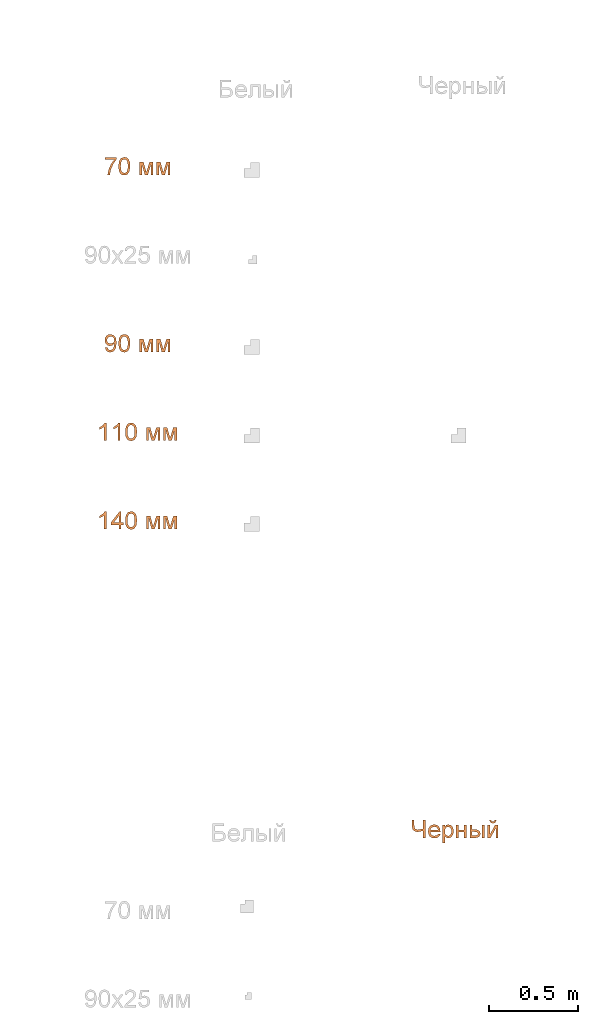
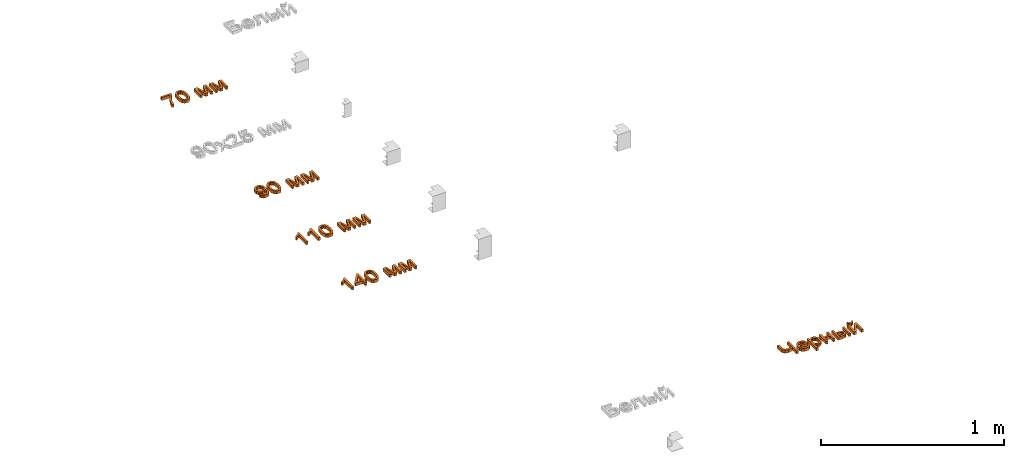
# One storey, part 40 of 87: 5 proxies.
"""IFC2X3 building model written with IfcOpenShell, lengths in millimetres."""

from ifc_helpers import new_model, entity, si_unit, converted_unit, derived_unit, direction, frame, frame_2d, origin, place, context, subcontext, project, spatial, polyline, rectangle, outline, extrude, element, save


model = new_model("IFC2X3")

# Units and contexts
model_context = context("Model", 3, precision=0.01, world=origin(), true_north=direction((6.12303176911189e-17, 1.0)))
body_context = subcontext(model_context, "Body", "Model", "MODEL_VIEW")
ifc_project = project(units=[si_unit("LENGTHUNIT", "METRE", prefix="MILLI"), si_unit("AREAUNIT", "SQUARE_METRE"), si_unit("VOLUMEUNIT", "CUBIC_METRE"), converted_unit("PLANEANGLEUNIT", "DEGREE", entity("IfcRatioMeasure", 0.0174532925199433), si_unit("PLANEANGLEUNIT", "RADIAN"), dimensions=[0, 0, 0, 0, 0, 0, 0]), si_unit("MASSUNIT", "GRAM", prefix="KILO"), derived_unit("MASSDENSITYUNIT", [(si_unit("MASSUNIT", "GRAM", prefix="KILO"), 1), (si_unit("LENGTHUNIT", "METRE"), -3)]), si_unit("TIMEUNIT", "SECOND"), si_unit("FREQUENCYUNIT", "HERTZ"), si_unit("THERMODYNAMICTEMPERATUREUNIT", "DEGREE_CELSIUS"), derived_unit("THERMALTRANSMITTANCEUNIT", [(si_unit("MASSUNIT", "GRAM", prefix="KILO"), 1), (si_unit("THERMODYNAMICTEMPERATUREUNIT", "KELVIN"), -1), (si_unit("TIMEUNIT", "SECOND"), -3)]), derived_unit("VOLUMETRICFLOWRATEUNIT", [(si_unit("LENGTHUNIT", "METRE"), 3), (si_unit("TIMEUNIT", "SECOND"), -1)]), si_unit("ELECTRICCURRENTUNIT", "AMPERE"), si_unit("ELECTRICVOLTAGEUNIT", "VOLT"), si_unit("POWERUNIT", "WATT"), si_unit("FORCEUNIT", "NEWTON", prefix="KILO"), si_unit("ILLUMINANCEUNIT", "LUX"), si_unit("LUMINOUSFLUXUNIT", "LUMEN"), si_unit("LUMINOUSINTENSITYUNIT", "CANDELA"), derived_unit("USERDEFINED", [(si_unit("MASSUNIT", "GRAM", prefix="KILO"), -1), (si_unit("LENGTHUNIT", "METRE"), -2), (si_unit("TIMEUNIT", "SECOND"), 3), (si_unit("LUMINOUSFLUXUNIT", "LUMEN"), 1)]), derived_unit("LINEARVELOCITYUNIT", [(si_unit("LENGTHUNIT", "METRE"), 1), (si_unit("TIMEUNIT", "SECOND"), -1)]), si_unit("PRESSUREUNIT", "PASCAL"), derived_unit("USERDEFINED", [(si_unit("LENGTHUNIT", "METRE"), -2), (si_unit("MASSUNIT", "GRAM", prefix="KILO"), 1), (si_unit("TIMEUNIT", "SECOND"), -2)])], contexts=[model_context])

# Site, building, storey
site_placement = place(None, origin())
site = spatial("IfcSite", under=ifc_project, at=site_placement, Name="Default", CompositionType="ELEMENT")
building_placement = place(site_placement, origin())
building = spatial("IfcBuilding", under=site, at=building_placement, Name="Наименование здания", CompositionType="ELEMENT")
storey_placement = place(building_placement, origin())
storey = spatial("IfcBuildingStorey", under=building, at=storey_placement, Name="Этаж 01", CompositionType="ELEMENT", Elevation=0.0)

# Proxies
proxy_1_placement = place(storey_placement, origin())
element("IfcBuildingElementProxy", 1, at=proxy_1_placement, inside=storey, Name="Текст модели:100 мм Arial", ObjectType="Текст модели:100 мм Arial", context=body_context, shape_type="SweptSolid", body=[
    extrude(outline(polyline([(-33.1249866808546, -28.4339338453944), (-33.1249866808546, -40.9909726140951), (32.799466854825, -40.9909726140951), (32.799466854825, -30.8374295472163), (14.0987987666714, -3.82262836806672), (-0.211810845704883, 30.5988636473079), (-4.87164945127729, 57.8957076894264), (-17.4286882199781, 57.8957076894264), (-12.4377558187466, 29.5687940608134), (1.25971713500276, -2.44920225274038), (20.2424280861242, -28.4339338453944), (-33.1249866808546, -28.4339338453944)])), frame((12235.1846956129, -8965.14171527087, 0.0), z_axis=(0.0, 0.0, -1.0), x_axis=(1.0, 0.0, 0.0)), (0.0, 0.0, -1.0), 20.0),
    extrude(outline(polyline([(-7.02884310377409, -33.3490673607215), (17.5323805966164, -33.3490673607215), (35.1984171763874, -27.6137612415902), (43.3439841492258, -18.4876517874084), (47.0516941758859, -5.75150665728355), (46.7162020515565, 4.48638208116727), (43.4465778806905, 13.0955287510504), (27.9444305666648, 25.6659118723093), (-0.314338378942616, 32.2325535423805), (-24.0296505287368, 32.3678288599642), (-39.4143020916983, 28.0260881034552), (-49.729368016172, 18.9002174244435), (-54.443671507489, 4.63998875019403), (-50.8676582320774, -14.130105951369), (-35.4058547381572, -26.733339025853), (-7.02884310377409, -33.3490673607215)]), holes=[polyline([(-5.77428774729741, -20.8548320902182), (-25.0157644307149, -17.3562860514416), (-36.7257089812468, -11.5717922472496), (-41.096258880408, -4.77599682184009), (-41.9669219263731, 3.2146479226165), (-39.2244253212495, 11.2791292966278), (-32.8654063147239, 17.2229259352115), (-20.969837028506, 20.2947501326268), (-1.61768958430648, 19.7433141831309), (17.8514140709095, 16.2707701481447), (28.7803640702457, 10.7141596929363), (33.5546988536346, 3.61815959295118), (34.5599568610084, -4.47255337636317), (31.9421230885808, -12.1923199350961), (25.84718253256, -18.1754808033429), (14.0250679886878, -21.4027476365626), (-5.77428774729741, -20.8548320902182)])]), frame((12312.8631089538, -8977.21424601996, 0.0), z_axis=(0.0, 0.0, 1.0), x_axis=(0.1018515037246, -0.994799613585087, 0.0)), (0.0, 0.0, 1.0), 20.0),
    extrude(outline(polyline([(-40.5839870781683, -38.4502715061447), (33.1886156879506, -38.4502715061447), (33.1886156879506, -25.893232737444), (-29.0570178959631, -25.893232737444), (33.1886156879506, -8.6273044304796), (33.1886156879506, 7.85380895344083), (-26.2120637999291, 25.9045521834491), (33.1886156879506, 25.9045521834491), (33.1886156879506, 38.4615909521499), (-40.5839870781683, 38.4615909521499), (-40.5839870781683, 17.7620973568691), (18.4733358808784, -0.190544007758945), (-40.5839870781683, -16.8433356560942), (-40.5839870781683, -38.4502715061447)])), frame((12436.7137111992, -8989.84880727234, 0.0), z_axis=(0.0, 0.0, 1.0), x_axis=(0.0, -1.0, 0.0)), (0.0, 0.0, 1.0), 20.0),
    extrude(outline(polyline([(-40.5839870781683, -38.4502715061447), (33.1886156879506, -38.4502715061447), (33.1886156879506, -25.893232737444), (-29.0570178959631, -25.893232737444), (33.1886156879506, -8.6273044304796), (33.1886156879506, 7.85380895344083), (-26.2120637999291, 25.9045521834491), (33.1886156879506, 25.9045521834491), (33.1886156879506, 38.4615909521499), (-40.5839870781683, 38.4615909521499), (-40.5839870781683, 17.7620973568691), (18.4733358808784, -0.190544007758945), (-40.5839870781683, -16.8433356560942), (-40.5839870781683, -38.4502715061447)])), frame((12532.4611318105, -8989.84880727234, 0.0), z_axis=(0.0, 0.0, 1.0), x_axis=(0.0, -1.0, 0.0)), (0.0, 0.0, 1.0), 20.0),
])
proxy_2_placement = place(storey_placement, origin())
element("IfcBuildingElementProxy", 2, at=proxy_2_placement, inside=storey, Name="Текст модели:100 мм Arial", ObjectType="Текст модели:100 мм Arial", context=body_context, shape_type="SweptSolid", body=[
    extrude(outline(polyline([(5.58296908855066, -31.7859506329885), (17.2387167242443, -31.7859506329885), (26.9216142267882, -28.1739915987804), (34.2072820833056, -21.2554963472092), (38.6713407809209, -11.3358876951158), (39.9245387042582, -0.903731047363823), (37.9450282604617, 8.9266189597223), (32.7793953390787, 17.8190246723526), (24.474225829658, 25.4373484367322), (-3.90517077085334, 37.3659164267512), (-32.1440557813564, 40.5619140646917), (-49.7769073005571, 32.531959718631), (-59.4683269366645, 16.6032994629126), (-60.4499889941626, 4.02951589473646), (-56.4016296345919, -7.53444362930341), (-47.8362588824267, -16.8026666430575), (-35.266886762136, -22.4892406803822), (-21.9841856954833, -23.8222776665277), (-10.3310965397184, -20.2832716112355), (-1.40106329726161, -12.8047998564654), (3.71247002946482, -2.31943974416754), (3.73902096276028, 11.9281903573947), (-2.85997612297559, 24.0883984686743), (-0.471643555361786, 23.5260231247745), (13.1334133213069, 18.0099957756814), (22.6158894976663, 11.2224941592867), (27.0079821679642, 2.9145290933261), (26.6924060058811, -7.52395807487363), (20.3410079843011, -16.8945474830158), (7.30988926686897, -19.2495752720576), (5.58296908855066, -31.7859506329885)]), holes=[polyline([(-21.7672208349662, 29.1433710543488), (-13.9803799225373, 25.5922442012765), (-8.911076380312, 19.8291378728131), (-7.47464573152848, 4.45415101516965), (-10.9717321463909, -3.43916536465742), (-16.547378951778, -8.73312215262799), (-23.5758136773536, -11.1761402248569), (-31.4312638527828, -10.5166404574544), (-39.4119601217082, -6.85973803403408), (-44.9206699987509, -0.817312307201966), (-47.5297596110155, 6.83624740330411), (-46.8115950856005, 15.3265517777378), (-43.3781823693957, 22.7799280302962), (-37.7148363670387, 27.7965691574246), (-30.3387761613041, 30.0324064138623), (-21.7672208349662, 29.1433710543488)])]), frame((12232.8947602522, -9984.31998894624, 0.0), z_axis=(0.0, 0.0, 1.0), x_axis=(0.258284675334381, -0.966068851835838, 0.0)), (0.0, 0.0, 1.0), 20.0),
    extrude(outline(polyline([(-7.02884310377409, -33.3490673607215), (17.5323805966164, -33.3490673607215), (35.1984171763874, -27.6137612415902), (43.3439841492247, -18.4876517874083), (47.0516941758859, -5.75150665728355), (46.7162020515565, 4.48638208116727), (43.4465778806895, 13.0955287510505), (27.9444305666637, 25.6659118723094), (-0.314338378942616, 32.2325535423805), (-24.0296505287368, 32.3678288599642), (-39.4143020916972, 28.0260881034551), (-49.7293680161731, 18.9002174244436), (-54.4436715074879, 4.63998875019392), (-50.8676582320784, -14.1301059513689), (-35.4058547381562, -26.7333390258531), (-7.02884310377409, -33.3490673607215)]), holes=[polyline([(-5.77428774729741, -20.8548320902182), (-25.0157644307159, -17.3562860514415), (-36.7257089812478, -11.5717922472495), (-41.0962588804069, -4.7759968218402), (-41.966921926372, 3.21464792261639), (-39.2244253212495, 11.2791292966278), (-32.8654063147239, 17.2229259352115), (-20.969837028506, 20.2947501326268), (-1.61768958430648, 19.7433141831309), (17.8514140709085, 16.2707701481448), (28.7803640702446, 10.7141596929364), (33.5546988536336, 3.61815959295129), (34.5599568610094, -4.47255337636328), (31.9421230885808, -12.1923199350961), (25.84718253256, -18.1754808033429), (14.0250679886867, -21.4027476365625), (-5.77428774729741, -20.8548320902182)])]), frame((12312.8631089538, -9977.21424601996, 0.0), z_axis=(0.0, 0.0, 1.0), x_axis=(0.1018515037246, -0.994799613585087, 0.0)), (0.0, 0.0, 1.0), 20.0),
    extrude(outline(polyline([(-40.5839870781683, -38.4502715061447), (33.1886156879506, -38.4502715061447), (33.1886156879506, -25.893232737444), (-29.0570178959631, -25.893232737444), (33.1886156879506, -8.6273044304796), (33.1886156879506, 7.85380895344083), (-26.2120637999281, 25.9045521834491), (33.1886156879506, 25.9045521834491), (33.1886156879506, 38.4615909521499), (-40.5839870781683, 38.4615909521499), (-40.5839870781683, 17.7620973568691), (18.4733358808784, -0.190544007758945), (-40.5839870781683, -16.8433356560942), (-40.5839870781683, -38.4502715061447)])), frame((12436.7137111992, -9989.84880727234, 0.0), z_axis=(0.0, 0.0, 1.0), x_axis=(0.0, -1.0, 0.0)), (0.0, 0.0, 1.0), 20.0),
    extrude(outline(polyline([(-40.5839870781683, -38.4502715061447), (33.1886156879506, -38.4502715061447), (33.1886156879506, -25.893232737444), (-29.0570178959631, -25.893232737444), (33.1886156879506, -8.6273044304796), (33.1886156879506, 7.85380895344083), (-26.2120637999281, 25.9045521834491), (33.1886156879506, 25.9045521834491), (33.1886156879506, 38.4615909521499), (-40.5839870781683, 38.4615909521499), (-40.5839870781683, 17.7620973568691), (18.4733358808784, -0.190544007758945), (-40.5839870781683, -16.8433356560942), (-40.5839870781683, -38.4502715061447)])), frame((12532.4611318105, -9989.84880727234, 0.0), z_axis=(0.0, 0.0, 1.0), x_axis=(0.0, -1.0, 0.0)), (0.0, 0.0, 1.0), 20.0),
])
proxy_3_placement = place(storey_placement, origin())
element("IfcBuildingElementProxy", 3, at=proxy_3_placement, inside=storey, Name="Текст модели:100 мм Arial", ObjectType="Текст модели:100 мм Arial", context=body_context, shape_type="SweptSolid", body=[
    extrude(outline(polyline([(-63.8793021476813, -16.918484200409), (36.577008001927, -16.918484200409), (36.577008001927, -8.825080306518), (23.2106288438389, 2.34626961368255), (11.4629304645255, 20.7526321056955), (-0.407395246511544, 20.7526321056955), (5.93243780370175, 7.53340574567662), (14.4059864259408, -4.36144543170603), (-63.8793021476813, -4.36144543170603), (-63.8793021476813, -16.918484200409)])), frame((12193.7741888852, -10459.1581208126, 0.0), z_axis=(0.0, 0.0, 1.0), x_axis=(0.0, 1.0, 0.0)), (0.0, 0.0, 1.0), 20.0),
    extrude(outline(polyline([(-63.8793021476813, -16.9184842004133), (36.577008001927, -16.9184842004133), (36.577008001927, -8.82508030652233), (23.2106288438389, 2.34626961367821), (11.4629304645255, 20.7526321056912), (-0.407395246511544, 20.7526321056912), (5.93243780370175, 7.53340574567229), (14.4059864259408, -4.36144543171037), (-63.8793021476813, -4.36144543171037), (-63.8793021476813, -16.9184842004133)])), frame((12270.6860513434, -10459.1581208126, 0.0), z_axis=(0.0, 0.0, 1.0), x_axis=(0.0, 1.0, 0.0)), (0.0, 0.0, 1.0), 20.0),
    extrude(outline(polyline([(-7.02884310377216, -33.3490673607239), (17.5323805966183, -33.3490673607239), (35.1984171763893, -27.6137612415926), (43.3439841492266, -18.4876517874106), (47.0516941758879, -5.75150665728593), (46.7162020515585, 4.4863820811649), (43.4465778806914, 13.0955287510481), (27.9444305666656, 25.6659118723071), (-0.314338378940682, 32.2325535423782), (-24.0296505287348, 32.3678288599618), (-39.4143020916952, 28.0260881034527), (-49.7293680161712, 18.9002174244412), (-54.4436715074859, 4.63998875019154), (-50.8676582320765, -14.1301059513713), (-35.4058547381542, -26.7333390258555), (-7.02884310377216, -33.3490673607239)]), holes=[polyline([(-5.77428774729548, -20.8548320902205), (-25.015764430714, -17.3562860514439), (-36.7257089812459, -11.5717922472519), (-41.096258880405, -4.77599682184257), (-41.9669219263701, 3.21464792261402), (-39.2244253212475, 11.2791292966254), (-32.865406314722, 17.2229259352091), (-20.969837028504, 20.2947501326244), (-1.61768958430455, 19.7433141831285), (17.8514140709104, 16.2707701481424), (28.7803640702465, 10.7141596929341), (33.5546988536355, 3.61815959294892), (34.5599568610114, -4.47255337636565), (31.9421230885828, -12.1923199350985), (25.8471825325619, -18.1754808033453), (14.0250679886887, -21.4027476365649), (-5.77428774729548, -20.8548320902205)])]), frame((12351.319040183, -10477.21424602, 0.0), z_axis=(0.0, 0.0, 1.0), x_axis=(0.1018515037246, -0.994799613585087, 0.0)), (0.0, 0.0, 1.0), 20.0),
    extrude(outline(polyline([(-40.5839870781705, -38.4502715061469), (33.1886156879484, -38.4502715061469), (33.1886156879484, -25.8932327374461), (-29.0570178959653, -25.8932327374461), (33.1886156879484, -8.62730443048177), (33.1886156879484, 7.85380895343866), (-26.2120637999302, 25.904552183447), (33.1886156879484, 25.904552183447), (33.1886156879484, 38.4615909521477), (-40.5839870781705, 38.4615909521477), (-40.5839870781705, 17.762097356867), (18.4733358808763, -0.19054400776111), (-40.5839870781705, -16.8433356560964), (-40.5839870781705, -38.4502715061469)])), frame((12475.1696424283, -10489.8488072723, 0.0), z_axis=(0.0, 0.0, 1.0), x_axis=(0.0, -1.0, 0.0)), (0.0, 0.0, 1.0), 20.0),
    extrude(outline(polyline([(-40.5839870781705, -38.4502715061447), (33.1886156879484, -38.4502715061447), (33.1886156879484, -25.893232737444), (-29.0570178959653, -25.893232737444), (33.1886156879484, -8.6273044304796), (33.1886156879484, 7.85380895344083), (-26.2120637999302, 25.9045521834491), (33.1886156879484, 25.9045521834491), (33.1886156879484, 38.4615909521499), (-40.5839870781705, 38.4615909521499), (-40.5839870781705, 17.7620973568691), (18.4733358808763, -0.190544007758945), (-40.5839870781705, -16.8433356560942), (-40.5839870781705, -38.4502715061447)])), frame((12570.9170630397, -10489.8488072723, 0.0), z_axis=(0.0, 0.0, 1.0), x_axis=(0.0, -1.0, 0.0)), (0.0, 0.0, 1.0), 20.0),
])
proxy_4_placement = place(storey_placement, origin())
element("IfcBuildingElementProxy", 4, at=proxy_4_placement, inside=storey, Name="Текст модели:100 мм Arial", ObjectType="Текст модели:100 мм Arial", context=body_context, shape_type="SweptSolid", body=[
    extrude(outline(polyline([(-63.8793021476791, -16.918484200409), (36.5770080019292, -16.918484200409), (36.5770080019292, -8.825080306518), (23.2106288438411, 2.34626961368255), (11.4629304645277, 20.7526321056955), (-0.407395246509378, 20.7526321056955), (5.93243780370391, 7.53340574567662), (14.405986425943, -4.36144543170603), (-63.8793021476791, -4.36144543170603), (-63.8793021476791, -16.918484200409)])), frame((12193.7741888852, -10959.1581208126, 0.0), z_axis=(0.0, 0.0, 1.0), x_axis=(0.0, 1.0, 0.0)), (0.0, 0.0, 1.0), 20.0),
    extrude(outline(polyline([(-1.14154897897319, -36.3868737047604), (11.4154897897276, -36.3868737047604), (11.4154897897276, -12.8424260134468), (23.9725285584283, -12.8424260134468), (23.9725285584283, -0.285387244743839), (11.4154897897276, -0.285387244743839), (11.4154897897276, 62.4998065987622), (1.99771071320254, 62.4998065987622), (-46.6608145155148, -0.285387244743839), (-46.6608145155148, -12.8424260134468), (-1.14154897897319, -12.8424260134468), (-1.14154897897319, -36.3868737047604)]), holes=[polyline([(-1.14154897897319, -0.285387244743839), (-31.20977071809, -0.285387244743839), (-1.14154897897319, 38.5139005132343), (-1.14154897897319, -0.285387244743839)])]), frame((12282.4675651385, -10986.6505492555, 0.0)), (0.0, 0.0, 1.0), 20.0),
    extrude(outline(polyline([(-7.02884310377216, -33.3490673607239), (17.5323805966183, -33.3490673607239), (35.1984171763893, -27.6137612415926), (43.3439841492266, -18.4876517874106), (47.0516941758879, -5.75150665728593), (46.7162020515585, 4.4863820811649), (43.4465778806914, 13.0955287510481), (27.9444305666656, 25.6659118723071), (-0.314338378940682, 32.2325535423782), (-24.0296505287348, 32.3678288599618), (-39.4143020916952, 28.0260881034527), (-49.7293680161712, 18.9002174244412), (-54.4436715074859, 4.63998875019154), (-50.8676582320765, -14.1301059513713), (-35.4058547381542, -26.7333390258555), (-7.02884310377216, -33.3490673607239)]), holes=[polyline([(-5.77428774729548, -20.8548320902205), (-25.015764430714, -17.3562860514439), (-36.7257089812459, -11.5717922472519), (-41.096258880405, -4.77599682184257), (-41.9669219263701, 3.21464792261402), (-39.2244253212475, 11.2791292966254), (-32.865406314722, 17.2229259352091), (-20.969837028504, 20.2947501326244), (-1.61768958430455, 19.7433141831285), (17.8514140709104, 16.2707701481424), (28.7803640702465, 10.7141596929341), (33.5546988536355, 3.61815959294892), (34.5599568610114, -4.47255337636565), (31.9421230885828, -12.1923199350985), (25.8471825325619, -18.1754808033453), (14.0250679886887, -21.4027476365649), (-5.77428774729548, -20.8548320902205)])]), frame((12351.319040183, -10977.21424602, 0.0), z_axis=(0.0, 0.0, 1.0), x_axis=(0.1018515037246, -0.994799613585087, 0.0)), (0.0, 0.0, 1.0), 20.0),
    extrude(outline(polyline([(-40.5839870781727, -38.4502715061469), (33.1886156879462, -38.4502715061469), (33.1886156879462, -25.8932327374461), (-29.0570178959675, -25.8932327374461), (33.1886156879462, -8.62730443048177), (33.1886156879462, 7.85380895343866), (-26.2120637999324, 25.904552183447), (33.1886156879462, 25.904552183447), (33.1886156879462, 38.4615909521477), (-40.5839870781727, 38.4615909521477), (-40.5839870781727, 17.762097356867), (18.4733358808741, -0.19054400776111), (-40.5839870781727, -16.8433356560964), (-40.5839870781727, -38.4502715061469)])), frame((12475.1696424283, -10989.8488072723, 0.0), z_axis=(0.0, 0.0, 1.0), x_axis=(0.0, -1.0, 0.0)), (0.0, 0.0, 1.0), 20.0),
    extrude(outline(polyline([(-40.5839870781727, -38.4502715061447), (33.1886156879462, -38.4502715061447), (33.1886156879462, -25.893232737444), (-29.0570178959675, -25.893232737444), (33.1886156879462, -8.6273044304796), (33.1886156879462, 7.85380895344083), (-26.2120637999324, 25.9045521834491), (33.1886156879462, 25.9045521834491), (33.1886156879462, 38.4615909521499), (-40.5839870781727, 38.4615909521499), (-40.5839870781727, 17.7620973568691), (18.4733358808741, -0.190544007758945), (-40.5839870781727, -16.8433356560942), (-40.5839870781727, -38.4502715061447)])), frame((12570.9170630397, -10989.8488072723, 0.0), z_axis=(0.0, 0.0, 1.0), x_axis=(0.0, -1.0, 0.0)), (0.0, 0.0, 1.0), 20.0),
])
proxy_5_placement = place(storey_placement, origin())
element("IfcBuildingElementProxy", 5, at=proxy_5_placement, inside=storey, Name="Текст модели:100 мм Arial", ObjectType="Текст модели:100 мм Arial", context=body_context, shape_type="SweptSolid", body=[
    extrude(outline(polyline([(-57.0521744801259, -41.5683661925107), (43.4041356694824, -41.5683661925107), (43.4041356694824, -29.0113274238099), (-5.30344049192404, -29.0113274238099), (-11.5329089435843, 0.689012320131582), (-6.37029827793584, 15.1835629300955), (1.59741260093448, 19.7085114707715), (15.1753239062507, 21.2168276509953), (43.4041356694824, 21.2168276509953), (43.4041356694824, 33.7738664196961), (13.483066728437, 33.7738664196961), (-6.51745107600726, 31.0883278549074), (-19.1235407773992, 20.4442754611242), (-24.0899477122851, 2.08696390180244), (-16.8304096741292, -29.0113274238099), (-57.0521744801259, -29.0113274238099), (-57.0521744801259, -41.5683661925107)])), frame((13970.0647556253, -12709.0772035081, 0.0), z_axis=(0.0, 0.0, 1.0), x_axis=(0.0, 1.0, 0.0)), (0.0, 0.0, 1.0), 20.0),
    extrude(outline(polyline([(-8.10128238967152, -20.3751729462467), (-15.5352214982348, -30.3140016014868), (-5.78400372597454, -33.5775071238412), (4.12185089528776, -33.3132173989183), (13.8776168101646, -29.448077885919), (23.1785684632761, -21.9090340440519), (31.638042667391, -9.59237957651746), (34.1620486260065, 3.74135328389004), (30.6040508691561, 17.2442201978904), (20.8175139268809, 30.0682768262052), (7.27698270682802, 39.7846728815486), (-6.66179525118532, 43.1117813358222), (-19.9642596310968, 40.4221234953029), (-31.595850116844, 32.0882206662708), (-39.2435519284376, 20.5090048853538), (-41.3106827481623, 7.34319797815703), (-37.4373707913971, -6.34962495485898), (-27.2637442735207, -19.5098888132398), (-24.7804584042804, -21.8106804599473), (14.4643272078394, 18.7422646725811), (19.7071986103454, 10.643799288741), (21.1614672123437, 2.21005051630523), (19.1472085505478, -5.98136753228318), (13.9844981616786, -13.3528407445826), (3.53684605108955, -20.3751729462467), (-8.10128238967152, -20.3751729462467)]), holes=[polyline([(5.44081225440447, 27.4746984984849), (-25.1227061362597, -4.10760383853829), (-29.8038819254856, 7.41909510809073), (-27.8851342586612, 15.7498710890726), (-22.5382240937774, 23.391034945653), (-8.40970331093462, 31.2368652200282), (-1.0807268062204, 30.9147288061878), (5.44081225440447, 27.4746984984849)])]), frame((14063.4134936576, -12735.8068271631, 0.0), z_axis=(0.0, 0.0, -1.0), x_axis=(-0.695421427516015, -0.71860214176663, 0.0)), (0.0, 0.0, -1.0), 20.0),
    extrude(outline(polyline([(-28.8983569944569, -61.233549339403), (-16.341318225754, -61.233549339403), (-16.341318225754, -23.1700255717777), (-8.38280439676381, -31.3247431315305), (2.54329085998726, -34.5498419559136), (18.4235303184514, -29.730587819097), (29.9259740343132, -15.8736993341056), (33.8868368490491, 4.47017499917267), (30.3796951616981, 23.8207679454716), (19.9808974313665, 37.5059781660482), (4.06386977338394, 42.362020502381), (-7.6593031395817, 38.8916670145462), (-16.341318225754, 28.480606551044), (-16.341318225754, 40.7923906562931), (-28.8983569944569, 40.7923906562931), (-28.8983569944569, -61.233549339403)]), holes=[polyline([(-16.341318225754, 3.31747808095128), (-14.8912500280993, 14.7064915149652), (-10.5410454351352, 23.0236902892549), (-4.30851130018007, 28.1096588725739), (2.7885455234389, 29.8049817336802), (9.85801119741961, 28.2108264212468), (15.8606190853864, 23.4283604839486), (19.9625033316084, 15.4453211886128), (21.3297980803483, 4.24944580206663), (19.9287808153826, -7.43080754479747), (15.7257290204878, -15.5916564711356), (9.56063991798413, -20.3925165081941), (2.27351073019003, -21.9928031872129), (-4.89712249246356, -20.4476988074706), (-10.9089274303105, -15.8123856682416), (-14.9832205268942, -7.93971097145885), (-16.341318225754, 3.31747808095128)])]), frame((14137.8485292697, -12733.1491658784, 0.0)), (0.0, 0.0, 1.0), 20.0),
    extrude(outline(polyline([(-36.1014864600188, -29.0381521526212), (37.6711163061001, -29.0381521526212), (37.6711163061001, -16.4811133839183), (4.70888953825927, -16.4811133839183), (4.70888953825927, 16.4811133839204), (37.6711163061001, 16.4811133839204), (37.6711163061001, 29.0381521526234), (-36.1014864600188, 29.0381521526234), (-36.1014864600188, 16.4811133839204), (-7.8481492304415, 16.4811133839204), (-7.8481492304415, -16.4811133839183), (-36.1014864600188, -16.4811133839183), (-36.1014864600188, -29.0381521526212)])), frame((14214.9001868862, -12728.4582616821, 0.0), z_axis=(0.0, 0.0, 1.0), x_axis=(0.0, -1.0, 0.0)), (0.0, 0.0, 1.0), 20.0),
    extrude(outline(polyline([(-42.3988715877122, -34.5139341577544), (31.3737311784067, -34.5139341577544), (31.3737311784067, -3.73447389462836), (29.6538828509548, 9.31613988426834), (24.4943378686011, 18.2526066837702), (16.9129030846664, 23.4121516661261), (7.92738535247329, 25.131999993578), (-1.94104916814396, 23.081057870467), (-9.4243820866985, 16.928231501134), (-14.1424686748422, 6.98622058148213), (-15.7151642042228, -6.43227519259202), (-15.7151642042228, -21.9568953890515), (-42.3988715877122, -21.9568953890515), (-42.3988715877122, -34.5139341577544)]), holes=[polyline([(18.816692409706, -21.9568953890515), (-3.158125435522, -21.9568953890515), (-3.158125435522, -7.41329384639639), (0.22638892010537, 8.8838785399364), (7.95191081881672, 12.5749612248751), (16.1802047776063, 7.5962915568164), (18.816692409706, -9.05650009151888), (18.816692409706, -21.9568953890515)])]), frame((14297.2878313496, -12734.7556468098, 0.0), z_axis=(0.0, 0.0, 1.0), x_axis=(0.0, -1.0, 0.0)), (0.0, 0.0, 1.0), 20.0),
    extrude(outline(polyline([(-11.1429830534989, -6.65049913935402), (-15.3141401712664, -15.0941956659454), (-0.092219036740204, -15.8161107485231), (10.2631635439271, -5.84547547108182), (12.416217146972, 9.42172447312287), (2.76087400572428, 21.4951559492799), (-1.41028311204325, 13.0514594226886), (3.36929976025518, 6.75127419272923), (2.31913688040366, -0.662833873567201), (-3.16906596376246, -6.65049913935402), (-11.1429830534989, -6.65049913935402)])), frame((14393.1426923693, -12672.7180080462, 0.0), z_axis=(0.0, 0.0, -1.0), x_axis=(-0.442902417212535, -0.896569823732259, 0.0)), (0.0, 0.0, -1.0), 20.0),
    extrude(outline(polyline([(-36.9206370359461, -29.8425874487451), (36.8519657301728, -29.8425874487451), (36.8519657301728, -13.4105249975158), (-19.0660975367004, 17.2463079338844), (36.8519657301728, 17.2463079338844), (36.8519657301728, 29.8033467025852), (-36.9206370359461, 29.8033467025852), (-36.9206370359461, 13.5674879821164), (19.3407827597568, -17.2855486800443), (-36.9206370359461, -17.2855486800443), (-36.9206370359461, -29.8425874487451)])), frame((14393.0727947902, -12729.277412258, 0.0), z_axis=(0.0, 0.0, 1.0), x_axis=(0.0, -1.0, 0.0)), (0.0, 0.0, 1.0), 20.0),
    extrude(rectangle(XDim=73.7726027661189, YDim=12.5570387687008, at=frame_2d((-1.08357767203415e-12, -1.08268949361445e-12), x_axis=(1.0, 0.0))), frame((14338.1161298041, -12729.2430766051, 0.0), z_axis=(0.0, 0.0, 1.0), x_axis=(0.0, -1.0, 0.0)), (0.0, 0.0, 1.0), 20.0),
])

save(model, "model.ifc")
